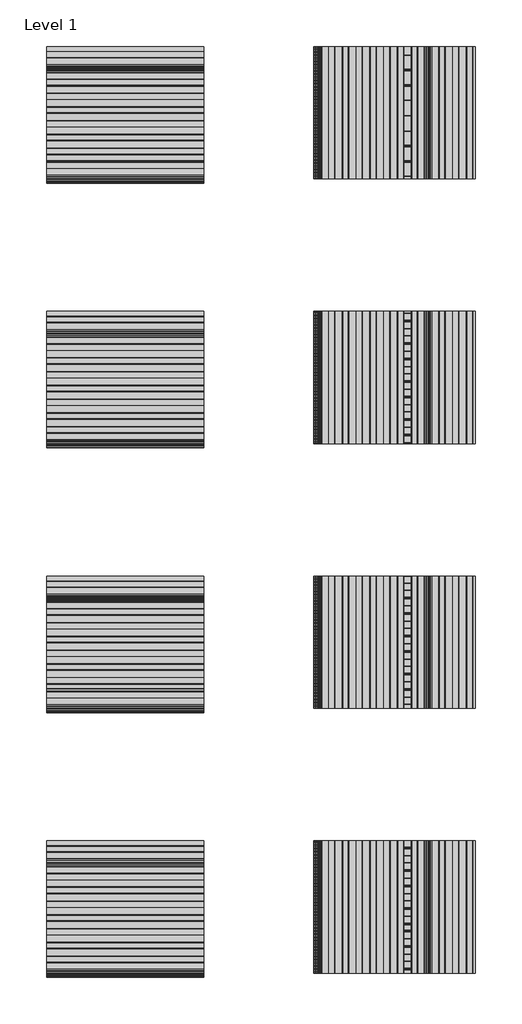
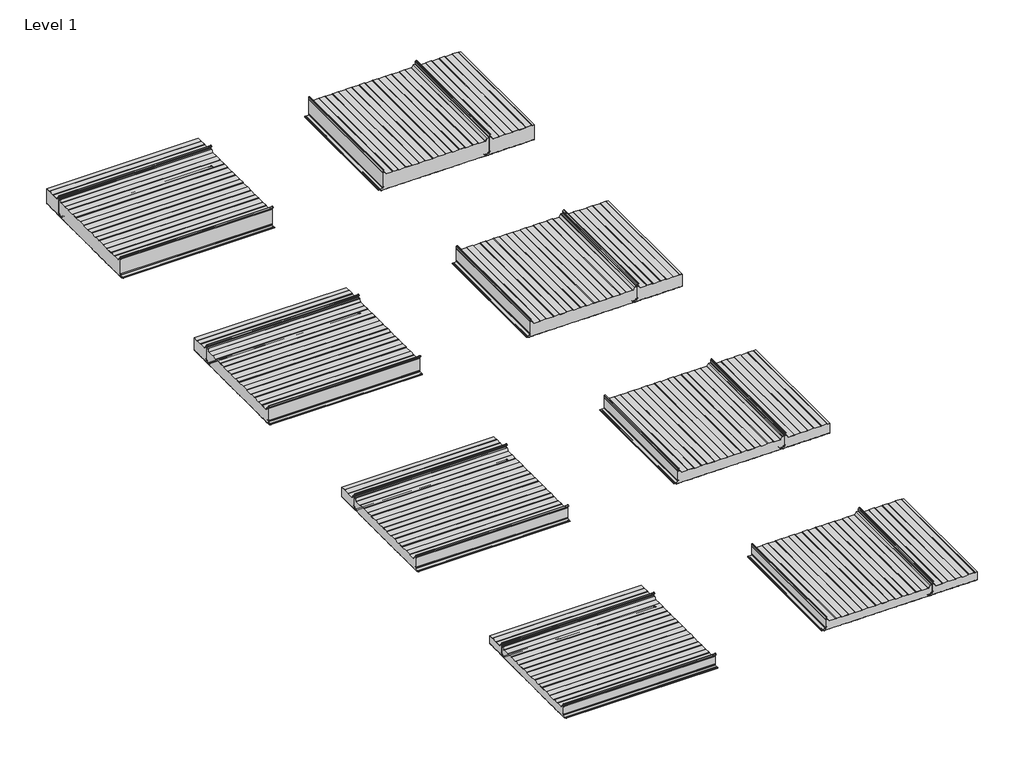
# One storey: 16 plates.
"""IFC4 building model written with IfcOpenShell, lengths in millimetres."""

from ifc_helpers import new_model, si_unit, origin, place, context, project, spatial, transform, mapped, element, save
from components import hz_3_25_inch_18bb287b, hz_3_25_inch_be8fa6c4, hz_3_25_inch_1d8aeb74, hz_4_inch_b0e98372, hz_4_inch_9b4ac41a, hz_5_inch_b71508c2, hz_5_inch_77713b08, hz_6_inch_54fbc4f6, hz_6_inch_8cb1a221, vt_3_25_inch_1afd26a9, vt_3_25_inch_0ac85842, vt_3_25_inch_0b0972e9, vt_4_inch_8830481b, vt_4_inch_5771786f, vt_4_inch_d5f43906, vt_5_inch_f296255c, vt_5_inch_1d088f2f, vt_5_inch_9fe79b5c, vt_6_inch_0f8d348a, vt_6_inch_eceeb9c5, vt_6_inch_caa78155

model = new_model("IFC4")

# Units and contexts
model_context = context("Model", 3, world=origin())
ifc_project = project(units=[si_unit("LENGTHUNIT", "METRE", prefix="MILLI")], contexts=[model_context])

# Site, building, storey
site = spatial("IfcSite", under=ifc_project)
building = spatial("IfcBuilding", under=site)
storey = spatial("IfcBuildingStorey", under=building, Name="Level 1", Elevation=4000.0)

# Plates
placement = place(None, origin())
hz_3_25_inch_shape = hz_3_25_inch_18bb287b(model_context)
hz_3_25_inch_2_shape = hz_3_25_inch_be8fa6c4(model_context)
element("IfcPlate", 1, ObjectType="KIP_R19_CP_KingSeam_Hz_Roof Panel : Hz_3.25 Inch", at=placement, inside=storey, context=model_context, shape_type="MappedRepresentation", body=[
    mapped(hz_3_25_inch_shape, transform((-8454.8208327, 6005.0207172, 0.0), x_axis=(1.0, 0.0, 0.0), y_axis=(0.0, 0.0, -1.0), z_axis=(0.0, 1.0, 0.0))),
    mapped(hz_3_25_inch_2_shape, transform((-8454.8208327, 6005.0207172, 0.0), x_axis=(1.0, 0.0, 0.0), y_axis=(0.0, 0.0, -1.0), z_axis=(0.0, 1.0, 0.0))),
])
hz_3_25_inch_3_shape = hz_3_25_inch_1d8aeb74(model_context)
element("IfcPlate", 2, ObjectType="KIP_R19_CP_KingSeam_Hz_Roof Panel : Hz_3.25 Inch", at=placement, inside=storey, context=model_context, shape_type="MappedRepresentation", body=[
    mapped(hz_3_25_inch_3_shape, transform((-8454.8208327, 7021.0207172, 0.0), x_axis=(1.0, 0.0, 0.0), y_axis=(0.0, 0.0, -1.0), z_axis=(0.0, 1.0, 0.0))),
])
hz_4_inch_shape = hz_4_inch_b0e98372(model_context)
element("IfcPlate", 3, ObjectType="KIP_R19_CP_KingSeam_Hz_Roof Panel : Hz_4 Inch", at=placement, inside=storey, context=model_context, shape_type="MappedRepresentation", body=[
    mapped(hz_4_inch_shape, transform((-8454.8208327, 8443.4207172, 0.0), x_axis=(1.0, 0.0, 0.0), y_axis=(0.0, 0.0, -1.0), z_axis=(0.0, 1.0, 0.0))),
    mapped(hz_3_25_inch_2_shape, transform((-8454.8208327, 8443.4207172, 0.0), x_axis=(1.0, 0.0, 0.0), y_axis=(0.0, 0.0, -1.0), z_axis=(0.0, 1.0, 0.0))),
])
hz_4_inch_2_shape = hz_4_inch_9b4ac41a(model_context)
element("IfcPlate", 4, ObjectType="KIP_R19_CP_KingSeam_Hz_Roof Panel : Hz_4 Inch", at=placement, inside=storey, context=model_context, shape_type="MappedRepresentation", body=[
    mapped(hz_4_inch_2_shape, transform((-8454.8208327, 9459.4207172, 0.0), x_axis=(1.0, 0.0, 0.0), y_axis=(0.0, 0.0, -1.0), z_axis=(0.0, 1.0, 0.0))),
])
hz_5_inch_shape = hz_5_inch_b71508c2(model_context)
element("IfcPlate", 5, ObjectType="KIP_R19_CP_KingSeam_Hz_Roof Panel : Hz_5 Inch", at=placement, inside=storey, context=model_context, shape_type="MappedRepresentation", body=[
    mapped(hz_5_inch_shape, transform((-8454.8208327, 10881.8207172, 0.0), x_axis=(1.0, 0.0, 0.0), y_axis=(0.0, 0.0, -1.0), z_axis=(0.0, 1.0, 0.0))),
    mapped(hz_3_25_inch_2_shape, transform((-8454.8208327, 10881.8207172, 0.0), x_axis=(1.0, 0.0, 0.0), y_axis=(0.0, 0.0, -1.0), z_axis=(0.0, 1.0, 0.0))),
])
hz_5_inch_2_shape = hz_5_inch_77713b08(model_context)
element("IfcPlate", 6, ObjectType="KIP_R19_CP_KingSeam_Hz_Roof Panel : Hz_5 Inch", at=placement, inside=storey, context=model_context, shape_type="MappedRepresentation", body=[
    mapped(hz_5_inch_2_shape, transform((-8454.8208327, 11897.8207172, 0.0), x_axis=(1.0, 0.0, 0.0), y_axis=(0.0, 0.0, -1.0), z_axis=(0.0, 1.0, 0.0))),
])
hz_6_inch_shape = hz_6_inch_54fbc4f6(model_context)
element("IfcPlate", 7, ObjectType="KIP_R19_CP_KingSeam_Hz_Roof Panel : Hz_6 Inch", at=placement, inside=storey, context=model_context, shape_type="MappedRepresentation", body=[
    mapped(hz_6_inch_shape, transform((-8454.8208327, 13320.2207172, 0.0), x_axis=(1.0, 0.0, 0.0), y_axis=(0.0, 0.0, -1.0), z_axis=(0.0, 1.0, 0.0))),
    mapped(hz_3_25_inch_2_shape, transform((-8454.8208327, 13320.2207172, 0.0), x_axis=(1.0, 0.0, 0.0), y_axis=(0.0, 0.0, -1.0), z_axis=(0.0, 1.0, 0.0))),
])
hz_6_inch_2_shape = hz_6_inch_8cb1a221(model_context)
element("IfcPlate", 8, ObjectType="KIP_R19_CP_KingSeam_Hz_Roof Panel : Hz_6 Inch", at=placement, inside=storey, context=model_context, shape_type="MappedRepresentation", body=[
    mapped(hz_6_inch_2_shape, transform((-8454.8208327, 14336.2207172, 0.0), x_axis=(1.0, 0.0, 0.0), y_axis=(0.0, 0.0, -1.0), z_axis=(0.0, 1.0, 0.0))),
])
vt_3_25_inch_shape = vt_3_25_inch_1afd26a9(model_context)
vt_3_25_inch_2_shape = vt_3_25_inch_0ac85842(model_context)
element("IfcPlate", 9, ObjectType="KIP_R19_CP_KingSeam_Vt_Roof Panel : Vt_3.25 Inch", at=placement, inside=storey, context=model_context, shape_type="MappedRepresentation", body=[
    mapped(vt_3_25_inch_shape, transform((-6170.9413834, 6005.0207172, 0.0), x_axis=(1.0, 0.0, 0.0), y_axis=(0.0, 0.0, -1.0), z_axis=(0.0, 1.0, 0.0))),
    mapped(vt_3_25_inch_2_shape, transform((-6170.9413834, 6005.0207172, 0.0), x_axis=(1.0, 0.0, 0.0), y_axis=(0.0, 0.0, -1.0), z_axis=(0.0, 1.0, 0.0))),
])
vt_3_25_inch_3_shape = vt_3_25_inch_0b0972e9(model_context)
element("IfcPlate", 10, ObjectType="KIP_R19_CP_KingSeam_Vt_Roof Panel : Vt_3.25 Inch", at=placement, inside=storey, context=model_context, shape_type="MappedRepresentation", body=[
    mapped(vt_3_25_inch_3_shape, transform((-5447.0371226, 6005.0207172, 0.0), x_axis=(1.0, 0.0, 0.0), y_axis=(0.0, 0.0, -1.0), z_axis=(0.0, 1.0, 0.0))),
])
vt_4_inch_shape = vt_4_inch_8830481b(model_context)
vt_4_inch_2_shape = vt_4_inch_5771786f(model_context)
element("IfcPlate", 11, ObjectType="KIP_R19_CP_KingSeam_Vt_Roof Panel : Vt_4 Inch", at=placement, inside=storey, context=model_context, shape_type="MappedRepresentation", body=[
    mapped(vt_4_inch_shape, transform((-6170.9413834, 8443.4207172, 0.0), x_axis=(1.0, 0.0, 0.0), y_axis=(0.0, 0.0, -1.0), z_axis=(0.0, 1.0, 0.0))),
    mapped(vt_4_inch_2_shape, transform((-6170.9413834, 8443.4207172, 0.0), x_axis=(1.0, 0.0, 0.0), y_axis=(0.0, 0.0, -1.0), z_axis=(0.0, 1.0, 0.0))),
])
vt_4_inch_3_shape = vt_4_inch_d5f43906(model_context)
element("IfcPlate", 12, ObjectType="KIP_R19_CP_KingSeam_Vt_Roof Panel : Vt_4 Inch", at=placement, inside=storey, context=model_context, shape_type="MappedRepresentation", body=[
    mapped(vt_4_inch_3_shape, transform((-5447.0371226, 8443.4207172, 0.0), x_axis=(1.0, 0.0, 0.0), y_axis=(0.0, 0.0, -1.0), z_axis=(0.0, 1.0, 0.0))),
])
vt_5_inch_shape = vt_5_inch_f296255c(model_context)
vt_5_inch_2_shape = vt_5_inch_1d088f2f(model_context)
element("IfcPlate", 13, ObjectType="KIP_R19_CP_KingSeam_Vt_Roof Panel : Vt_5 Inch", at=placement, inside=storey, context=model_context, shape_type="MappedRepresentation", body=[
    mapped(vt_5_inch_shape, transform((-6170.9413834, 10881.8207172, 0.0), x_axis=(1.0, 0.0, 0.0), y_axis=(0.0, 0.0, -1.0), z_axis=(0.0, 1.0, 0.0))),
    mapped(vt_5_inch_2_shape, transform((-6170.9413834, 10881.8207172, 0.0), x_axis=(1.0, 0.0, 0.0), y_axis=(0.0, 0.0, -1.0), z_axis=(0.0, 1.0, 0.0))),
])
vt_5_inch_3_shape = vt_5_inch_9fe79b5c(model_context)
element("IfcPlate", 14, ObjectType="KIP_R19_CP_KingSeam_Vt_Roof Panel : Vt_5 Inch", at=placement, inside=storey, context=model_context, shape_type="MappedRepresentation", body=[
    mapped(vt_5_inch_3_shape, transform((-5447.0371226, 10881.8207172, 0.0), x_axis=(1.0, 0.0, 0.0), y_axis=(0.0, 0.0, -1.0), z_axis=(0.0, 1.0, 0.0))),
])
vt_6_inch_shape = vt_6_inch_0f8d348a(model_context)
vt_6_inch_2_shape = vt_6_inch_eceeb9c5(model_context)
element("IfcPlate", 15, ObjectType="KIP_R19_CP_KingSeam_Vt_Roof Panel : Vt_6 Inch", at=placement, inside=storey, context=model_context, shape_type="MappedRepresentation", body=[
    mapped(vt_6_inch_shape, transform((-6170.9413834, 13320.2207172, 0.0), x_axis=(1.0, 0.0, 0.0), y_axis=(0.0, 0.0, -1.0), z_axis=(0.0, 1.0, 0.0))),
    mapped(vt_6_inch_2_shape, transform((-6170.9413834, 13320.2207172, 0.0), x_axis=(1.0, 0.0, 0.0), y_axis=(0.0, 0.0, -1.0), z_axis=(0.0, 1.0, 0.0))),
])
vt_6_inch_3_shape = vt_6_inch_caa78155(model_context)
element("IfcPlate", 16, ObjectType="KIP_R19_CP_KingSeam_Vt_Roof Panel : Vt_6 Inch", at=placement, inside=storey, context=model_context, shape_type="MappedRepresentation", body=[
    mapped(vt_6_inch_3_shape, transform((-5447.0371226, 13320.2207172, 0.0), x_axis=(1.0, 0.0, 0.0), y_axis=(0.0, 0.0, -1.0), z_axis=(0.0, 1.0, 0.0))),
])

save(model, "model.ifc")
